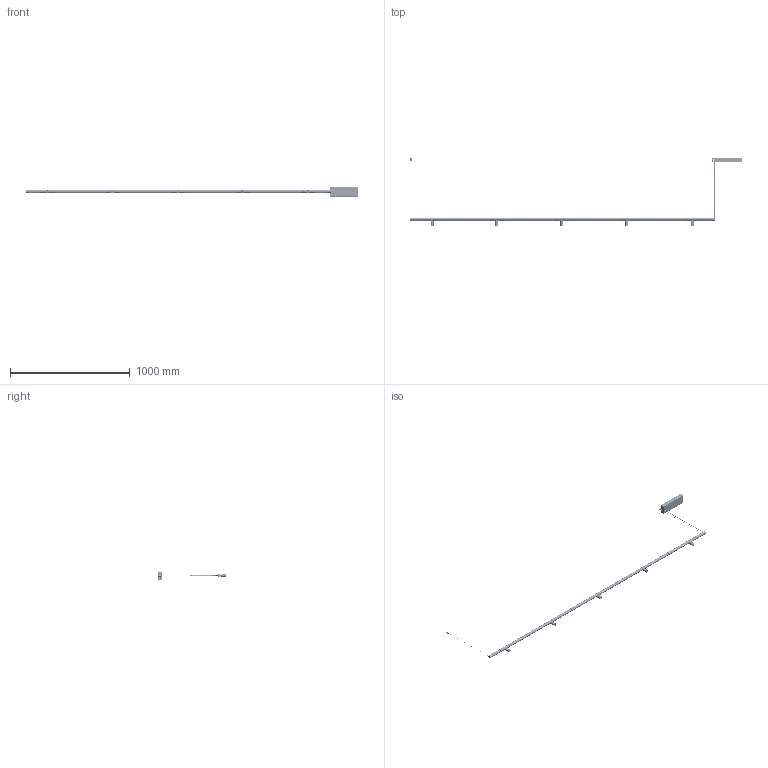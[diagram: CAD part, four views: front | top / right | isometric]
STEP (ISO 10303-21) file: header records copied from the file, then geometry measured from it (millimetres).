
FILE_DESCRIPTION (( 'STEP AP214' ), '1' );
FILE_NAME ('OVAL SPOT 25 surf.STEP', '2024-03-15T08:50:50', ( '' ), ( '' ), 'SwSTEP 2.0', 'SolidWorks 2024', '' );
FILE_SCHEMA (( 'AUTOMOTIVE_DESIGN' ));
Length unit declared in the file: millimetre
Products named in the file (43): CJ04 - ENS Foco Spot (V1.2)_V3 09-20; 04-23DM01-Adaptador_Caja_DM01.3; Holder; Tija Tiny_Inyección ; Tubo Alu. Focus 25_V3-30-09-21; Tapa Unión-Final V5_V5.1 Colgante Union ; Prisionero STEAB M4x4_8; Cable_VISUAL Alimentación Micro; Boca Focus 25_ZDNTL; OVAL SPOT 25 surf; Taco cuerpo Micro; Tapa Alimentación Perfil_SCPRE; Lente -115.11.HILL-20-22°-CREE; Jack_Scpre; Embellecedor Floron Micro_Micro Colgante; Ensamble Floron Superficie_Colgante; Difusor Negro Oval_0.1m; 04-23DM03-Tope_Adaptador_1.3; Ensamble Tensor Micro_Con Cable; countersunk flat head cross recess screw_din_DIN EN ISO 7046-1 - M2.5 x 6 - Z - 6N; Ensamble Conector Jack Unión_Alimentación Colgante SCPRE; Conector Molex Hembra 43020; Difusor Negro Oval_0.42m; Chapa Floron Micro_Techo; Taco Micro_Ø10 M10*5; CUI_DEVICES_PJ-005B_Ø2.5; DM05-Tapa SPOT(V1.2); Driver Entity EN1689; Imán_12d*5; 04-23DM02-Adaptador_Tapa(V1.2)_24V; Tuerca Hembra Conector Jack; Tapon Tapa_2; CJ01-ENS_Adaptador 24V_Proyector; Ensamble Tapa + Tope_Con Conector; Essentra Pasamuro 498025; Cable acero_0.5m; Ensamble Led; Remache 3 Cabeza CONICA_remachado; Kgp 100w-24V; Perfil Micro V4_2.5m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
Assembly tree (62 placements, depth 4):
  OVAL SPOT 25 surf
    Perfil Micro V4_2.5m
    CJ01-ENS_Adaptador 24V_Proyector  x5
      04-23DM01-Adaptador_Caja_DM01.3
      04-23DM02-Adaptador_Tapa(V1.2)_24V
      Conector Molex Hembra 43020
      Driver Entity EN1689
      04-23DM03-Tope_Adaptador_1.3
      Tija Tiny_Inyección 
    CJ04 - ENS Foco Spot (V1.2)_V3 09-20  x5
      Tubo Alu. Focus 25_V3-30-09-21
      Boca Focus 25_ZDNTL
      Ensamble Led
        BLX V-4 Single Array
        Holder
        countersunk flat head cross recess screw_din_DIN EN ISO 7046-1 - M2.5 x 6 - Z - 6N  x2
      Prisionero STEAB M4x4_8
      Lente -115.11.HILL-20-22°-CREE
      DM05-Tapa SPOT(V1.2)
    Difusor Negro Oval_0.1m  x2
    Difusor Negro Oval_0.42m  x4
    Ensamble Tapa + Tope_Con Conector  x2
      Tapa Micro V5_V5.1
      CUI_DEVICES_PJ-005B_Ø2.5
      Tuerca Hembra Conector Jack
    Ensamble Tensor Micro_Con Cable  x2
      Taco Micro_Ø10 M10*5
      Taco cuerpo Micro
      Regulador Cable Ø0.6 (Bereta LT1007.0601)
      Cable acero_0.5m
    Tapa Unión-Final V5_V5.1 Colgante Union   x2
    Ensamble Floron Superficie_Colgante
      Kgp 100w-24V
      Embellecedor Floron Micro_Micro Colgante
      Chapa Floron Micro_Techo
      Remache 3 Cabeza CONICA_remachado  x2
      Imán_12d*5  x2
      Essentra Pasamuro 498025
    Ensamble Conector Jack Unión_Alimentación Colgante SCPRE
      Cable_VISUAL Alimentación Micro
      Jack_Scpre
      Tapa Alimentación Perfil_SCPRE
      Prisionero STEAB M4x4_8
    Tapon Tapa_2
Bounding box: 2774.44 x 567.27 x 75.27 mm (x, y, z)
Volume: 634841 mm3; surface area: 877990.1 mm2
Topology: 118 solids, 195 shells, 10288 faces, 27591 edges, 17744 vertices
Faces by surface type: plane 4624, cylinder 3291, bspline 1111, torus 609, cone 475, sphere 178
Entity records: 162626 total; most frequent: CARTESIAN_POINT 68740, ORIENTED_EDGE 20537, DIRECTION 17753, EDGE_CURVE 10316, VERTEX_POINT 6733, VECTOR 6207, LINE 6207, AXIS2_PLACEMENT_3D 5773
